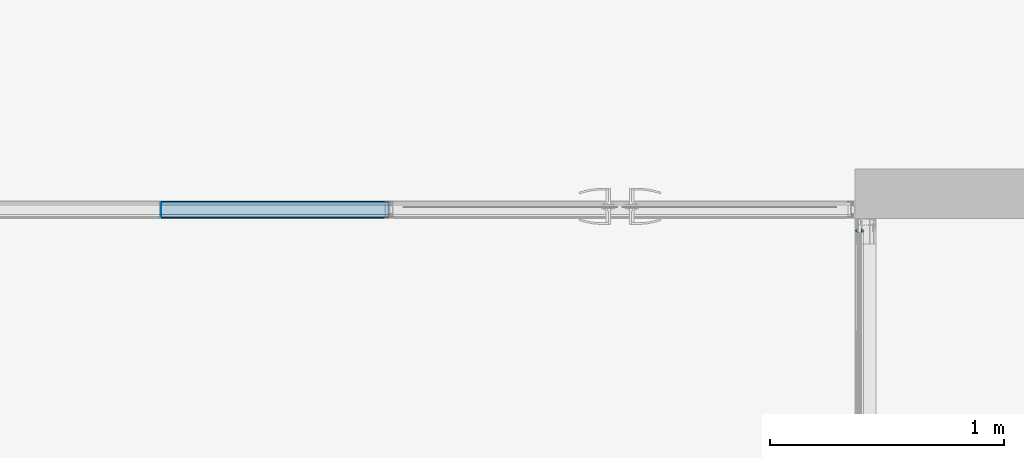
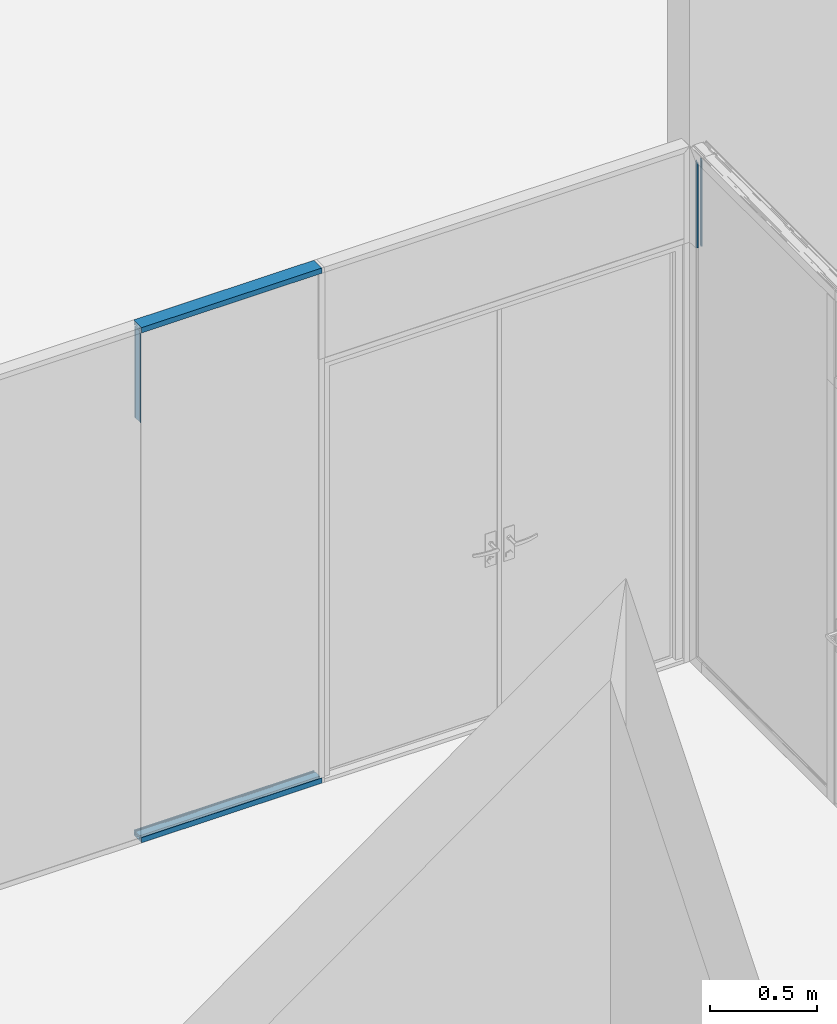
# One storey, part 30 of 62: 7 building element parts, 6 elements without a shape of their own.
"""IFC2X3 building model written with IfcOpenShell, lengths in millimetres."""

from ifc_helpers import new_model, entity, si_unit, converted_unit, derived_unit, money_unit, direction, frame, origin_with_axes, place, context, subcontext, project, spatial, faceted_brep, source, transform, mapped, material, type_object, element, aggregate, save


model = new_model("IFC2X3")

# Units and contexts
model_context = context("Model", 3, precision=0.01, world=origin_with_axes(), true_north=direction((0.0, 1.0)))
body_context = subcontext(model_context, "Body", "Model", "MODEL_VIEW")
ifc_project = project(units=[si_unit("LENGTHUNIT", "METRE", prefix="MILLI"), si_unit("AREAUNIT", "SQUARE_METRE"), si_unit("VOLUMEUNIT", "CUBIC_METRE"), converted_unit("PLANEANGLEUNIT", "DEGREE", entity("IfcPlaneAngleMeasure", 0.0174532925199), si_unit("PLANEANGLEUNIT", "RADIAN"), dimensions=[0, 0, 0, 0, 0, 0, 0]), si_unit("SOLIDANGLEUNIT", "STERADIAN"), money_unit("EUR"), converted_unit("TIMEUNIT", "Year", entity("IfcTimeMeasure", 31556926.0), si_unit("TIMEUNIT", "SECOND"), dimensions=[0, 0, 1, 0, 0, 0, 0]), si_unit("MASSUNIT", "GRAM", prefix="KILO"), si_unit("THERMODYNAMICTEMPERATUREUNIT", "DEGREE_CELSIUS"), si_unit("LUMINOUSINTENSITYUNIT", "LUMEN"), si_unit("ENERGYUNIT", "JOULE", prefix="MEGA"), derived_unit("THERMALCONDUCTANCEUNIT", [(si_unit("POWERUNIT", "WATT"), 1), (si_unit("LENGTHUNIT", "METRE"), -1), (si_unit("THERMODYNAMICTEMPERATUREUNIT", "KELVIN"), -1)]), derived_unit("SPECIFICHEATCAPACITYUNIT", [(si_unit("ENERGYUNIT", "JOULE"), 1), (si_unit("MASSUNIT", "GRAM", prefix="KILO"), -1), (si_unit("THERMODYNAMICTEMPERATUREUNIT", "KELVIN"), -1)]), derived_unit("MASSDENSITYUNIT", [(si_unit("MASSUNIT", "GRAM", prefix="KILO"), 1), (si_unit("VOLUMEUNIT", "CUBIC_METRE"), -1)])], contexts=[model_context])

# Site, building, storey
site_placement = place(None, origin_with_axes())
site = spatial("IfcSite", under=ifc_project, at=site_placement, Name="Puškini 31, Narva", CompositionType="ELEMENT")
building_placement = place(site_placement, origin_with_axes())
building = spatial("IfcBuilding", under=site, at=building_placement, Name="Narva Riigigümnaasium", CompositionType="ELEMENT")
storey_placement = place(building_placement, frame((0.0, 0.0, 660.0), z_axis=(0.0, 0.0, 1.0), x_axis=(1.0, 0.0, 0.0)))
storey = spatial("IfcBuildingStorey", under=building, at=storey_placement, Name="2.korrus +0.66", CompositionType="ELEMENT", Elevation=660.0)

# Curtain wall, members, building element parts
curtain_wall_type = type_object("IfcCurtainWallType", Name="Curtain Wall Type", PredefinedType="NOTDEFINED")
curtain_wall_1_placement = place(storey_placement, frame((45089.2571373, 223837.000216, -1.99739158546e-06), z_axis=(0.0, 0.0, 1.0), x_axis=(1.0, 0.0, 0.0)))
curtain_wall_1 = element("IfcCurtainWall", 1, at=curtain_wall_1_placement, inside=storey, type_object=curtain_wall_type, Name="G-SKLF-52")
member_type_1 = type_object("IfcMemberType", Name="30 x 37", PredefinedType="MULLION")
member_1_placement = place(curtain_wall_1_placement, frame((-558.057143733, 0.0, 2949.99994304), z_axis=(1.0, 0.0, 0.0), x_axis=(0.0, 0.0, -1.0)))
member_1 = element("IfcMember", 2, at=member_1_placement, type_object=member_type_1, Name="G-SKLF-64-raam", ObjectType="MULLION")
ifc_material_1 = material(Name="Klaasvill")
shared_shape_1 = source(origin_with_axes(), body_context, "Body", "Brep", [
    faceted_brep([(7.49999990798, 20.000000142, 0.0), (13.8499999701, 20.000000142, 0.0), (13.8499999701, 20.000000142, 976.600001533), (7.49999990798, 20.000000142, 976.600001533), (7.49999990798, 34.0161444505, 0.0), (13.8499999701, 34.0161444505, 0.0), (13.8499999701, 34.0161444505, 976.600001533), (7.49999990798, 34.0161444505, 976.600001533)], [[[0, 1, 2, 3]], [[0, 4, 5, 1]], [[1, 5, 6, 2]], [[3, 2, 6, 7]], [[4, 0, 3, 7]], [[5, 4, 7, 6]]]),
    faceted_brep([(24.987414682, 34.0161444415, 0.0), (25.004489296, 32.0307503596, 0.0), (25.004489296, 32.0307503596, 976.600001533), (24.987414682, 34.0161444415, 976.600001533), (28.5126239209, 34.0161444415, 0.0), (28.7655837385, 33.0385325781, 0.0), (28.4955493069, 32.0307503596, 0.0), (27.75780152, 31.2930025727, 0.0), (26.7500193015, 31.0229681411, 0.0), (25.742237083, 31.2930025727, 0.0), (25.742237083, 31.2930025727, 976.600001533), (26.7500193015, 31.0229681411, 976.600001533), (27.75780152, 31.2930025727, 976.600001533), (28.4955493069, 32.0307503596, 976.600001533), (28.7655837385, 33.0385325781, 976.600001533), (28.5126239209, 34.0161444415, 976.600001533)], [[[0, 1, 2, 3]], [[0, 4, 5, 6, 7, 8, 9, 1]], [[1, 9, 10, 2]], [[3, 2, 10, 11, 12, 13, 14, 15]], [[4, 0, 3, 15]], [[5, 4, 15, 14]], [[6, 5, 14, 13]], [[7, 6, 13, 12]], [[8, 7, 12, 11]], [[9, 8, 11, 10]]]),
    faceted_brep([(7.49999990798, -19.9999997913, 0.0), (7.49999990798, -34.0161445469, 0.0), (7.49999990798, -34.0161445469, 976.600001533), (7.49999990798, -19.9999997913, 976.600001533), (13.8499999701, -19.9999997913, 0.0), (13.8499999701, -34.0161445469, 0.0), (13.8499999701, -34.0161445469, 976.600001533), (13.8499999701, -19.9999997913, 976.600001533)], [[[0, 1, 2, 3]], [[0, 4, 5, 1]], [[1, 5, 6, 2]], [[3, 2, 6, 7]], [[4, 0, 3, 7]], [[5, 4, 7, 6]]]),
    faceted_brep([(25.004489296, -32.0307503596, 0.0), (24.987414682, -34.0161444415, 0.0), (24.987414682, -34.0161444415, 976.600001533), (25.004489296, -32.0307503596, 976.600001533), (25.742237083, -31.2930025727, 0.0), (26.7500193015, -31.0229681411, 0.0), (27.75780152, -31.2930025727, 0.0), (28.4955493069, -32.0307503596, 0.0), (28.7655837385, -33.0385325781, 0.0), (28.5126239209, -34.0161444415, 0.0), (28.5126239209, -34.0161444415, 976.600001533), (28.7655837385, -33.0385325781, 976.600001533), (28.4955493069, -32.0307503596, 976.600001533), (27.75780152, -31.2930025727, 976.600001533), (26.7500193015, -31.0229681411, 976.600001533), (25.742237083, -31.2930025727, 976.600001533)], [[[0, 1, 2, 3]], [[0, 4, 5, 6, 7, 8, 9, 1]], [[1, 9, 10, 2]], [[3, 2, 10, 11, 12, 13, 14, 15]], [[4, 0, 3, 15]], [[5, 4, 15, 14]], [[6, 5, 14, 13]], [[7, 6, 13, 12]], [[8, 7, 12, 11]], [[9, 8, 11, 10]]]),
])
building_element_part_1_placement = place(member_1_placement, origin_with_axes())
building_element_part_1 = element("IfcBuildingElementPart", 3, at=building_element_part_1_placement, material=ifc_material_1, Name="Klaasvill", context=body_context, shape_type="MappedRepresentation", body=[
    mapped(shared_shape_1, transform((0.0, 0.0, 0.0))),
])
member_2_placement = place(curtain_wall_1_placement, frame((418.5428578, 0.0, 0.0), z_axis=(-1.0, 0.0, 0.0), x_axis=(0.0, 0.0, 1.0)))
member_2 = element("IfcMember", 4, at=member_2_placement, type_object=member_type_1, Name="G-SKLF-68-raam", ObjectType="MULLION")
building_element_part_2_placement = place(member_2_placement, origin_with_axes())
building_element_part_2 = element("IfcBuildingElementPart", 5, at=building_element_part_2_placement, material=ifc_material_1, Name="Klaasvill", context=body_context, shape_type="MappedRepresentation", body=[
    mapped(shared_shape_1, transform((0.0, 0.0, 0.0))),
])
ifc_material_2 = material(Name="Teras RAL7012")
shared_shape_2 = source(origin_with_axes(), body_context, "Body", "Brep", [
    faceted_brep([(0.0, -17.0000000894, 0.0), (29.5999996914, -17.0000000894, 0.0), (29.5999996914, -17.0000000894, 976.600001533), (0.0, -17.0000000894, 976.600001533), (0.0, 17.0000000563, 0.0), (29.5999996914, 17.0000000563, 0.0), (1.9999999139, 15.0000001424, 0.0), (1.9999999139, -15.0000001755, 0.0), (18.7999996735, -15.0000001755, 0.0), (18.7999996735, 15.0000001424, 0.0), (29.5999996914, 17.0000000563, 976.600001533), (0.0, 17.0000000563, 976.600001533), (1.9999999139, 15.0000001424, 976.600001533), (18.7999996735, 15.0000001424, 976.600001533), (18.7999996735, -15.0000001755, 976.600001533), (1.9999999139, -15.0000001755, 976.600001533)], [[[0, 1, 2, 3]], [[0, 4, 5, 1], [6, 7, 8, 9]], [[1, 5, 10, 2]], [[3, 2, 10, 11], [12, 13, 14, 15]], [[4, 0, 3, 11]], [[5, 4, 11, 10]], [[7, 6, 12, 15]], [[8, 7, 15, 14]], [[9, 8, 14, 13]], [[6, 9, 13, 12]]]),
    faceted_brep([(0.0, 17.0, 0.0), (29.5999996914, 17.0000000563, 0.0), (29.5999996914, 17.0000000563, 976.600001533), (0.0, 17.0, 976.600001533), (0.0, 37.0, 0.0), (30.0000193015, 37.0, 0.0), (30.0000193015, 34.0161444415, 0.0), (28.5126239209, 34.0161444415, 0.0), (24.987414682, 34.0161444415, 0.0), (13.8499999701, 34.0161444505, 0.0), (7.49999999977, 34.0161444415, 0.0), (7.49999999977, 20.0, 0.0), (13.8499999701, 20.000000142, 0.0), (30.0000193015, 20.0, 0.0), (30.0000193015, 17.0, 0.0), (30.0000193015, 17.0, 976.600001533), (30.0000193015, 20.0, 976.600001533), (13.8499999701, 20.000000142, 976.600001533), (7.49999999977, 20.0, 976.600001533), (7.49999999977, 34.0161444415, 976.600001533), (13.8499999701, 34.0161444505, 976.600001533), (24.987414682, 34.0161444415, 976.600001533), (28.5126239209, 34.0161444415, 976.600001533), (30.0000193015, 34.0161444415, 976.600001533), (30.0000193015, 37.0, 976.600001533), (0.0, 37.0, 976.600001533)], [[[0, 1, 2, 3]], [[0, 4, 5, 6, 7, 8, 9, 10, 11, 12, 13, 14, 1]], [[1, 14, 15, 2]], [[3, 2, 15, 16, 17, 18, 19, 20, 21, 22, 23, 24, 25]], [[4, 0, 3, 25]], [[5, 4, 25, 24]], [[6, 5, 24, 23]], [[7, 6, 23, 22]], [[8, 7, 22, 21]], [[9, 8, 21, 20]], [[10, 9, 20, 19]], [[11, 10, 19, 18]], [[12, 11, 18, 17]], [[13, 12, 17, 16]], [[14, 13, 16, 15]]]),
    faceted_brep([(0.0, -17.0, 0.0), (0.0, -37.0, 0.0), (0.0, -37.0, 976.600001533), (0.0, -17.0, 976.600001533), (29.5999996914, -17.0000000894, 0.0), (30.0000193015, -17.0, 0.0), (30.0000193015, -20.0, 0.0), (13.8499999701, -19.9999997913, 0.0), (7.49999999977, -20.0, 0.0), (7.49999999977, -34.0161444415, 0.0), (13.8499999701, -34.0161445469, 0.0), (24.987414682, -34.0161444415, 0.0), (28.5126239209, -34.0161444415, 0.0), (30.0000193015, -34.0161444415, 0.0), (30.0000193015, -37.0, 0.0), (30.0000193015, -37.0, 976.600001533), (30.0000193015, -34.0161444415, 976.600001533), (28.5126239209, -34.0161444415, 976.600001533), (24.987414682, -34.0161444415, 976.600001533), (13.8499999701, -34.0161445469, 976.600001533), (7.49999999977, -34.0161444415, 976.600001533), (7.49999999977, -20.0, 976.600001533), (13.8499999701, -19.9999997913, 976.600001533), (30.0000193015, -20.0, 976.600001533), (30.0000193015, -17.0, 976.600001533), (29.5999996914, -17.0000000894, 976.600001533)], [[[0, 1, 2, 3]], [[0, 4, 5, 6, 7, 8, 9, 10, 11, 12, 13, 14, 1]], [[1, 14, 15, 2]], [[3, 2, 15, 16, 17, 18, 19, 20, 21, 22, 23, 24, 25]], [[4, 0, 3, 25]], [[5, 4, 25, 24]], [[6, 5, 24, 23]], [[7, 6, 23, 22]], [[8, 7, 22, 21]], [[9, 8, 21, 20]], [[10, 9, 20, 19]], [[11, 10, 19, 18]], [[12, 11, 18, 17]], [[13, 12, 17, 16]], [[14, 13, 16, 15]]]),
])
building_element_part_3_placement = place(member_1_placement, origin_with_axes())
building_element_part_3 = element("IfcBuildingElementPart", 6, at=building_element_part_3_placement, material=ifc_material_2, Name="Teras RAL7012", context=body_context, shape_type="MappedRepresentation", body=[
    mapped(shared_shape_2, transform((0.0, 0.0, 0.0))),
])
aggregate(member_1, [building_element_part_1, building_element_part_3])
building_element_part_4_placement = place(member_2_placement, origin_with_axes())
building_element_part_4 = element("IfcBuildingElementPart", 7, at=building_element_part_4_placement, material=ifc_material_2, Name="Teras RAL7012", context=body_context, shape_type="MappedRepresentation", body=[
    mapped(shared_shape_2, transform((0.0, 0.0, 0.0))),
])
aggregate(member_2, [building_element_part_2, building_element_part_4])

# Curtain wall, member, building element part
curtain_wall_2_placement = place(storey_placement, frame((47544.998162, 221675.502168, -2.45869393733e-05), z_axis=(0.0, 0.0, 1.0), x_axis=(1.0, 0.0, 0.0)))
curtain_wall_2 = element("IfcCurtainWall", 8, at=curtain_wall_2_placement, inside=storey, type_object=curtain_wall_type, Name="G-SKLF-51")
member_type_2 = type_object("IfcMemberType", Name="61 x 45", PredefinedType="MULLION")
member_3_placement = place(curtain_wall_2_placement, frame((-0.0091109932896, 2124.49797464, 2950.00002459), z_axis=(0.0, 1.81128970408e-09, -1.0), x_axis=(4.28853941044e-06, -0.999999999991, -1.81128970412e-09)))
member_3 = element("IfcMember", 9, at=member_3_placement, type_object=member_type_2, Name="G-SKLF-71-raam", ObjectType="MULLION")
aggregate(curtain_wall_2, [member_3])
ifc_material_3 = material(Name="Membraan - Veekindel")
shared_shape_3 = source(origin_with_axes(), body_context, "Body", "Brep", [
    faceted_brep([(59.5800222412, 34.73794757, 59.5800221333), (59.5800222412, 34.73794757, 550.000000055), (61.0413385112, 34.3890442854, 550.000000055), (61.0413385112, 34.3890442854, 61.0413384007), (58.4755028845, 35.3628499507, 58.4755027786), (58.4755028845, 35.3628499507, 550.000000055), (57.9693613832, 36.5265882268, 550.000000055), (57.7000324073, 39.5999584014, 550.000000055), (57.6464370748, 39.799971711, 550.000000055), (57.5000161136, 39.946391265, 550.000000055), (57.3000022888, 39.9999846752, 550.000000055), (57.3000022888, 39.1999494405, 550.000000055), (55.3000210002, 39.1999606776, 550.000000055), (55.2330337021, 38.9499606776, 550.000000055), (55.0500210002, 38.7669479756, 550.000000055), (54.8000210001, 38.6999606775, 550.000000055), (54.5500210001, 38.7669479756, 550.000000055), (54.3670082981, 38.9499606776, 550.000000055), (54.300021, 39.1999606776, 550.000000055), (54.300021, 40.4999366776, 550.000000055), (54.3402133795, 40.6499366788, 550.000000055), (54.4500210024, 40.7597443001, 550.000000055), (54.6000210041, 40.7999366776, 550.000000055), (54.7000173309, 40.7999366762, 550.000000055), (54.866675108, 40.850483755, 550.000000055), (54.9771753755, 40.9850924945, 550.000000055), (54.9942836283, 41.1584047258, 550.000000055), (54.9122350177, 41.3120206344, 550.000000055), (53.8716106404, 42.3533776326, 550.000000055), (53.7093558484, 42.4618547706, 550.000000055), (53.517932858, 42.4999486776, 550.000000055), (51.8818844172, 42.4999486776, 550.000000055), (51.6904310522, 42.4618421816, 550.000000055), (51.5281601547, 42.3533311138, 550.000000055), (50.4878083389, 41.3119729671, 550.000000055), (50.4057850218, 41.1583618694, 550.000000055), (50.4229059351, 40.9850671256, 550.000000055), (50.5334025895, 40.8504763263, 550.000000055), (50.7000457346, 40.7999366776, 550.000000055), (50.80004, 40.7999366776, 550.000000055), (50.95004, 40.7597442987, 550.000000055), (51.0598476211, 40.6499366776, 550.000000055), (51.10004, 40.4999366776, 550.000000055), (51.10004, 39.1999550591, 550.000000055), (51.0330541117, 38.9499546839, 550.000000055), (50.8500424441, 38.7669409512, 550.000000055), (50.6000428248, 38.699952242, 550.000000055), (50.3500424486, 38.7669381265, 550.000000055), (50.1670287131, 38.9499497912, 550.000000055), (50.10004, 39.1999494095, 550.000000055), (48.7206527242, 39.1999494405, 550.000000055), (48.7206527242, 38.0023809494, 550.000000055), (48.7876400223, 37.7523809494, 550.000000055), (48.9706527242, 37.5693682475, 550.000000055), (49.2206527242, 37.5023809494, 550.000000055), (50.3319753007, 37.5023809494, 550.000000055), (50.5819753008, 37.4353936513, 550.000000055), (50.7649880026, 37.2523809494, 550.000000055), (51.1691331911, 36.5523809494, 550.000000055), (51.352145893, 36.3693682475, 550.000000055), (51.602145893, 36.3023809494, 550.000000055), (53.8391557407, 36.3023809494, 550.000000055), (54.0891557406, 36.3693682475, 550.000000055), (54.2721684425, 36.5523809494, 550.000000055), (54.676313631, 37.2523809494, 550.000000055), (54.8593263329, 37.4353936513, 550.000000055), (55.1093263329, 37.5023809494, 550.000000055), (55.7607444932, 37.5023809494, 550.000000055), (55.9795989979, 37.4519392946, 550.000000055), (56.1542959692, 37.3107917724, 550.000000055), (56.2495873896, 37.1074172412, 550.000000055), (56.9567944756, 35.6067920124, 550.000000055), (58.2346494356, 34.5489145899, 550.000000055), (59.8409257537, 34.1343131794, 550.000000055), (60.7381535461, 33.9217644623, 550.000000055), (61.0108941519, 33.784859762, 550.000000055), (61.1423164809, 33.9681748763, 550.000000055), (61.1536677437, 34.1934467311, 550.000000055), (53.5000340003, 40.7999553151, 550.000000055), (53.433048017, 39.44993177, 550.000000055), (53.2500389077, 39.2669226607, 550.000000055), (53.0000438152, 39.1999366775, 550.000000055), (52.4000171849, 39.1999366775, 550.000000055), (52.1500220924, 39.2669226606, 550.000000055), (51.9670129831, 39.4499317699, 550.000000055), (51.9000269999, 39.6999268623, 550.000000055), (51.9000269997, 40.799955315, 550.000000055), (51.9670118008, 41.0499459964, 550.000000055), (52.150017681, 41.2329518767, 550.000000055), (52.4000083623, 41.299936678, 550.000000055), (53.0000526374, 41.299936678, 550.000000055), (53.2500433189, 41.2329518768, 550.000000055), (53.4330491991, 41.0499459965, 550.000000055), (61.1536677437, 34.1934467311, 61.1536676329), (61.1423164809, 33.9681748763, 61.1423163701), (61.0108941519, 33.784859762, 61.0108940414), (60.7381535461, 33.9217644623, 60.738153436), (59.8409257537, 34.1343131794, 59.8409256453), (58.2346494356, 34.5489145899, 58.2346493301), (56.9567944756, 35.6067920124, 56.9567943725), (56.2495873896, 37.1074172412, 56.2495872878), (56.1542959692, 37.3107917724, 56.1542958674), (55.9795989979, 37.4519392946, 55.9795988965), (55.7607444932, 37.5023809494, 55.7607443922), (55.1093263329, 37.5023809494, 55.1093262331), (54.8593263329, 37.4353936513, 54.8593262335), (54.676313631, 37.2523809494, 54.676313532), (54.2721684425, 36.5523809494, 54.2721683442), (54.0891557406, 36.3693682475, 54.0891556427), (53.8391557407, 36.3023809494, 53.8391556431), (51.602145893, 36.3023809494, 51.6021457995), (51.352145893, 36.3693682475, 51.3521458), (51.1691331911, 36.5523809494, 51.1691330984), (50.7649880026, 37.2523809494, 50.7649879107), (50.5819753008, 37.4353936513, 50.5819752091), (50.3319753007, 37.5023809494, 50.3319752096), (49.2206527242, 37.5023809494, 49.220652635), (48.9706527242, 37.5693682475, 48.9706526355), (48.7876400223, 37.7523809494, 48.7876399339), (48.7206527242, 38.0023809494, 48.7206526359), (48.7206527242, 39.1999494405, 48.7206526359), (50.10004, 39.1999494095, 50.1000399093), (50.1670287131, 38.9499497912, 50.1670286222), (50.3500424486, 38.7669381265, 50.3500423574), (50.6000428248, 38.699952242, 50.6000427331), (50.8500424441, 38.7669409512, 50.850042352), (51.0330541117, 38.9499546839, 51.0330540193), (51.10004, 39.1999550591, 51.1000399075), (51.10004, 40.4999366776, 51.1000399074), (51.0598476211, 40.6499366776, 51.0598475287), (50.95004, 40.7597442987, 50.9500399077), (50.80004, 40.7999366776, 50.800039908), (50.7000457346, 40.7999366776, 50.7000456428), (50.5334025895, 40.8504763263, 50.533402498), (50.4229059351, 40.9850671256, 50.4229058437), (50.4057850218, 41.1583618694, 50.4057849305), (50.4878083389, 41.3119729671, 50.4878082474), (51.5281601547, 42.3533311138, 51.5281600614), (51.6904310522, 42.4618421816, 51.6904309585), (51.8818844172, 42.4999486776, 51.8818843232), (53.517932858, 42.4999486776, 53.5179327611), (53.7093558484, 42.4618547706, 53.7093557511), (53.8716106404, 42.3533776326, 53.8716105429), (54.9122350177, 41.3120206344, 54.9122349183), (54.9942836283, 41.1584047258, 54.9942835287), (54.9771753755, 40.9850924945, 54.9771752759), (54.866675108, 40.850483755, 54.8666750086), (54.7000173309, 40.7999366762, 54.7000172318), (54.6000210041, 40.7999366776, 54.6000209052), (54.4500210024, 40.7597443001, 54.4500209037), (54.3402133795, 40.6499366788, 54.3402132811), (54.300021, 40.4999366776, 54.3000209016), (54.300021, 39.1999606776, 54.3000209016), (54.3670082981, 38.9499606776, 54.3670081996), (54.5500210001, 38.7669479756, 54.5500209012), (54.8000210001, 38.6999606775, 54.8000209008), (55.0500210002, 38.7669479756, 55.0500209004), (55.2330337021, 38.9499606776, 55.233033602), (55.3000210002, 39.1999606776, 55.3000209), (57.3000022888, 39.1999494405, 57.300002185), (57.3000022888, 39.9999846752, 57.300002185), (57.5000161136, 39.946391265, 57.5000160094), (57.6464370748, 39.799971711, 57.6464369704), (57.7000324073, 39.5999584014, 57.7000323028), (57.9693613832, 36.5265882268, 57.9693612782), (53.5000340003, 40.7999553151, 53.5000339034), (53.4330491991, 41.0499459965, 53.4330491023), (53.2500433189, 41.2329518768, 53.2500432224), (53.0000526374, 41.299936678, 53.0000525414), (52.4000083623, 41.299936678, 52.4000082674), (52.150017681, 41.2329518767, 52.1500175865), (51.9670118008, 41.0499459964, 51.9670117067), (51.9000269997, 40.799955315, 51.9000269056), (51.9000269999, 39.6999268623, 51.9000269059), (51.9670129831, 39.4499317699, 51.967012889), (52.1500220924, 39.2669226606, 52.150021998), (52.4000171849, 39.1999366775, 52.40001709), (53.0000438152, 39.1999366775, 53.0000437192), (53.2500389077, 39.2669226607, 53.2500388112), (53.433048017, 39.44993177, 53.4330479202)], [[[0, 1, 2, 3]], [[4, 5, 1, 0]], [[2, 1, 5, 6, 7, 8, 9, 10, 11, 12, 13, 14, 15, 16, 17, 18, 19, 20, 21, 22, 23, 24, 25, 26, 27, 28, 29, 30, 31, 32, 33, 34, 35, 36, 37, 38, 39, 40, 41, 42, 43, 44, 45, 46, 47, 48, 49, 50, 51, 52, 53, 54, 55, 56, 57, 58, 59, 60, 61, 62, 63, 64, 65, 66, 67, 68, 69, 70, 71, 72, 73, 74, 75, 76, 77], [78, 79, 80, 81, 82, 83, 84, 85, 86, 87, 88, 89, 90, 91, 92]], [[3, 2, 77, 93]], [[3, 93, 94, 95, 96, 97, 98, 99, 100, 101, 102, 103, 104, 105, 106, 107, 108, 109, 110, 111, 112, 113, 114, 115, 116, 117, 118, 119, 120, 121, 122, 123, 124, 125, 126, 127, 128, 129, 130, 131, 132, 133, 134, 135, 136, 137, 138, 139, 140, 141, 142, 143, 144, 145, 146, 147, 148, 149, 150, 151, 152, 153, 154, 155, 156, 157, 158, 159, 160, 161, 162, 163, 164, 4, 0], [165, 166, 167, 168, 169, 170, 171, 172, 173, 174, 175, 176, 177, 178, 179]], [[164, 6, 5, 4]], [[163, 7, 6, 164]], [[162, 8, 7, 163]], [[161, 9, 8, 162]], [[160, 10, 9, 161]], [[159, 11, 10, 160]], [[158, 12, 11, 159]], [[157, 13, 12, 158]], [[156, 14, 13, 157]], [[155, 15, 14, 156]], [[154, 16, 15, 155]], [[153, 17, 16, 154]], [[152, 18, 17, 153]], [[151, 19, 18, 152]], [[150, 20, 19, 151]], [[149, 21, 20, 150]], [[148, 22, 21, 149]], [[147, 23, 22, 148]], [[146, 24, 23, 147]], [[145, 25, 24, 146]], [[144, 26, 25, 145]], [[143, 27, 26, 144]], [[142, 28, 27, 143]], [[141, 29, 28, 142]], [[140, 30, 29, 141]], [[139, 31, 30, 140]], [[138, 32, 31, 139]], [[137, 33, 32, 138]], [[136, 34, 33, 137]], [[135, 35, 34, 136]], [[134, 36, 35, 135]], [[133, 37, 36, 134]], [[132, 38, 37, 133]], [[131, 39, 38, 132]], [[130, 40, 39, 131]], [[129, 41, 40, 130]], [[128, 42, 41, 129]], [[127, 43, 42, 128]], [[126, 44, 43, 127]], [[125, 45, 44, 126]], [[124, 46, 45, 125]], [[123, 47, 46, 124]], [[122, 48, 47, 123]], [[121, 49, 48, 122]], [[120, 50, 49, 121]], [[119, 51, 50, 120]], [[118, 52, 51, 119]], [[117, 53, 52, 118]], [[116, 54, 53, 117]], [[115, 55, 54, 116]], [[114, 56, 55, 115]], [[113, 57, 56, 114]], [[112, 58, 57, 113]], [[111, 59, 58, 112]], [[110, 60, 59, 111]], [[109, 61, 60, 110]], [[108, 62, 61, 109]], [[107, 63, 62, 108]], [[106, 64, 63, 107]], [[105, 65, 64, 106]], [[104, 66, 65, 105]], [[103, 67, 66, 104]], [[102, 68, 67, 103]], [[101, 69, 68, 102]], [[100, 70, 69, 101]], [[99, 71, 70, 100]], [[98, 72, 71, 99]], [[97, 73, 72, 98]], [[96, 74, 73, 97]], [[95, 75, 74, 96]], [[94, 76, 75, 95]], [[93, 77, 76, 94]], [[179, 79, 78, 165]], [[178, 80, 79, 179]], [[177, 81, 80, 178]], [[176, 82, 81, 177]], [[175, 83, 82, 176]], [[174, 84, 83, 175]], [[173, 85, 84, 174]], [[172, 86, 85, 173]], [[171, 87, 86, 172]], [[170, 88, 87, 171]], [[169, 89, 88, 170]], [[168, 90, 89, 169]], [[167, 91, 90, 168]], [[166, 92, 91, 167]], [[165, 78, 92, 166]]]),
    faceted_brep([(55.9926715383, 16.8063498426, 55.9926714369), (55.9926715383, 16.8063498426, 550.000000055), (59.0307115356, 16.554149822, 550.000000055), (59.0307115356, 16.554149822, 59.0307114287), (53.7899070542, 16.6230039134, 53.7899069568), (53.7899070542, 16.6230039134, 550.000000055), (53.1225200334, 16.3483062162, 550.000000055), (51.5205025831, 15.0099586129, 550.000000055), (51.3011765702, 14.8998814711, 550.000000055), (51.0558924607, 14.9074036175, 550.000000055), (50.8437237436, 15.0307134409, 550.000000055), (50.5536994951, 15.2121179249, 550.000000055), (46.298307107, 16.7340705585, 550.000000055), (45.950966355, 16.7718696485, 550.000000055), (45.6241929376, 16.6482027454, 550.000000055), (45.3889077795, 16.3899097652, 550.000000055), (45.3195226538, 16.2152275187, 550.000000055), (45.3418968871, 15.7688623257, 550.000000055), (45.6142070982, 15.4144760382, 550.000000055), (51.8169217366, 8.74599822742, 550.000000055), (51.938943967, 8.6326446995, 550.000000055), (52.1026310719, 8.60190419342, 550.000000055), (52.2574645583, 8.66326410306, 550.000000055), (52.3556584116, 8.79778701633, 550.000000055), (52.7761212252, 9.95299910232, 550.000000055), (52.8859560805, 10.0961386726, 550.000000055), (53.0580290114, 10.1503930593, 550.000000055), (55.1123574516, 10.1503930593, 550.000000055), (55.2731258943, 10.1036784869, 550.000000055), (55.3838261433, 9.9780831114, 550.000000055), (55.4099827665, 9.81272116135, 550.000000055), (55.2940485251, 8.85237785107, 550.000000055), (55.3307332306, 8.72753828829, 550.000000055), (55.4168250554, 8.62997353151, 550.000000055), (55.5361285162, 8.57803733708, 550.000000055), (56.9361285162, 8.30590490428, 550.000000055), (57.0661058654, 8.3093438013, 550.000000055), (57.1824204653, 8.36745448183, 550.000000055), (57.2632233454, 8.46932121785, 550.000000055), (57.5418652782, 10.0035930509, 550.000000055), (59.3405112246, 15.0012955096, 550.000000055), (59.5001582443, 15.5494067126, 550.000000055), (59.3884652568, 16.1092618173, 550.000000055), (59.3884652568, 16.1092618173, 59.3884651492), (59.5001582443, 15.5494067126, 59.5001581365), (59.3405112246, 15.0012955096, 59.3405111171), (57.5418652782, 10.0035930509, 57.541865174), (57.2632233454, 8.46932121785, 57.2632232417), (57.1824204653, 8.36745448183, 57.1824203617), (57.0661058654, 8.3093438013, 57.0661057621), (56.9361285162, 8.30590490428, 56.9361284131), (55.5361285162, 8.57803733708, 55.5361284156), (55.4168250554, 8.62997353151, 55.416824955), (55.3307332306, 8.72753828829, 55.3307331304), (55.2940485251, 8.85237785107, 55.294048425), (55.4099827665, 9.81272116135, 55.4099826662), (55.3838261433, 9.9780831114, 55.383826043), (55.2731258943, 10.1036784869, 55.2731257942), (55.1123574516, 10.1503930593, 55.1123573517), (53.0580290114, 10.1503930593, 53.0580289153), (52.8859560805, 10.0961386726, 52.8859559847), (52.7761212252, 9.95299910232, 52.7761211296), (52.3556584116, 8.79778701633, 52.3556583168), (52.2574645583, 8.66326410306, 52.2574644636), (52.1026310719, 8.60190419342, 52.1026309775), (51.938943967, 8.6326446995, 51.9389438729), (51.8169217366, 8.74599822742, 51.8169216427), (45.6142070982, 15.4144760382, 45.6142070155), (45.3418968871, 15.7688623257, 45.3418968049), (45.3195226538, 16.2152275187, 45.3195225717), (45.3889077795, 16.3899097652, 45.3889076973), (45.6241929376, 16.6482027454, 45.624192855), (45.950966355, 16.7718696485, 45.9509662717), (46.298307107, 16.7340705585, 46.2983070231), (50.5536994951, 15.2121179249, 50.5536994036), (50.8437237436, 15.0307134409, 50.8437236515), (51.0558924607, 14.9074036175, 51.0558923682), (51.3011765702, 14.8998814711, 51.3011764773), (51.5205025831, 15.0099586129, 51.5205024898), (53.1225200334, 16.3483062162, 53.1225199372)], [[[0, 1, 2, 3]], [[4, 5, 1, 0]], [[2, 1, 5, 6, 7, 8, 9, 10, 11, 12, 13, 14, 15, 16, 17, 18, 19, 20, 21, 22, 23, 24, 25, 26, 27, 28, 29, 30, 31, 32, 33, 34, 35, 36, 37, 38, 39, 40, 41, 42]], [[3, 2, 42, 43]], [[3, 43, 44, 45, 46, 47, 48, 49, 50, 51, 52, 53, 54, 55, 56, 57, 58, 59, 60, 61, 62, 63, 64, 65, 66, 67, 68, 69, 70, 71, 72, 73, 74, 75, 76, 77, 78, 79, 4, 0]], [[79, 6, 5, 4]], [[78, 7, 6, 79]], [[77, 8, 7, 78]], [[76, 9, 8, 77]], [[75, 10, 9, 76]], [[74, 11, 10, 75]], [[73, 12, 11, 74]], [[72, 13, 12, 73]], [[71, 14, 13, 72]], [[70, 15, 14, 71]], [[69, 16, 15, 70]], [[68, 17, 16, 69]], [[67, 18, 17, 68]], [[66, 19, 18, 67]], [[65, 20, 19, 66]], [[64, 21, 20, 65]], [[63, 22, 21, 64]], [[62, 23, 22, 63]], [[61, 24, 23, 62]], [[60, 25, 24, 61]], [[59, 26, 25, 60]], [[58, 27, 26, 59]], [[57, 28, 27, 58]], [[56, 29, 28, 57]], [[55, 30, 29, 56]], [[54, 31, 30, 55]], [[53, 32, 31, 54]], [[52, 33, 32, 53]], [[51, 34, 33, 52]], [[50, 35, 34, 51]], [[49, 36, 35, 50]], [[48, 37, 36, 49]], [[47, 38, 37, 48]], [[46, 39, 38, 47]], [[45, 40, 39, 46]], [[44, 41, 40, 45]], [[43, 42, 41, 44]]]),
])
building_element_part_5_placement = place(member_3_placement, origin_with_axes())
building_element_part_5 = element("IfcBuildingElementPart", 10, at=building_element_part_5_placement, material=ifc_material_3, Name="Membraan - Veekindel", context=body_context, shape_type="MappedRepresentation", body=[
    mapped(shared_shape_3, transform((0.0, 0.0, 0.0))),
])
aggregate(member_3, [building_element_part_5])

# Member
member_type_3 = type_object("IfcMemberType", Name="3 x -35", PredefinedType="MULLION")
member_4_placement = place(curtain_wall_1_placement, frame((-558.057143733, 0.0, 2400.0), z_axis=(0.0, 0.0, 1.0), x_axis=(1.0, 0.0, 0.0)))
member_4 = element("IfcMember", 11, at=member_4_placement, type_object=member_type_3, Name="G-SKLF-52-raam", ObjectType="MULLION")

aggregate(curtain_wall_1, [member_1, member_4, member_2])

# Building element part
ifc_material_4 = material(Name="Klaas")
shared_shape_4 = source(origin_with_axes(), body_context, "Body", "Brep", [
    faceted_brep([(-1.4999861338, 20.0064497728, 0.0), (1.5000138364, 20.0064497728, 0.0), (1.5000138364, 20.0064497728, 519.999923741), (-1.4999861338, 20.0064497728, 519.999923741), (-1.4999861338, 29.0064496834, 0.0), (1.5000138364, 29.0064496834, 0.0), (1.5000138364, 29.0064496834, 519.999923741), (-1.4999861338, 29.0064496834, 519.999923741)], [[[0, 1, 2, 3]], [[0, 4, 5, 1]], [[1, 5, 6, 2]], [[3, 2, 6, 7]], [[4, 0, 3, 7]], [[5, 4, 7, 6]]]),
    faceted_brep([(-1.4999861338, -19.993550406, 0.0), (-1.4999861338, -28.9935503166, 0.0), (-1.4999861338, -28.9935503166, 519.999923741), (-1.4999861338, -19.993550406, 519.999923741), (1.5000138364, -19.993550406, 0.0), (1.5000138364, -28.9935503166, 0.0), (1.5000138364, -28.9935503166, 519.999923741), (1.5000138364, -19.993550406, 519.999923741)], [[[0, 1, 2, 3]], [[0, 4, 5, 1]], [[1, 5, 6, 2]], [[3, 2, 6, 7]], [[4, 0, 3, 7]], [[5, 4, 7, 6]]]),
])
building_element_part_6_placement = place(member_4_placement, origin_with_axes())
building_element_part_6 = element("IfcBuildingElementPart", 12, at=building_element_part_6_placement, material=ifc_material_4, Name="Klaas", context=body_context, shape_type="MappedRepresentation", body=[
    mapped(shared_shape_4, transform((0.0, 0.0, 0.0))),
])

ifc_material_5 = material(Name="VKR-06_Õhkvahe")
shared_shape_5 = source(origin_with_axes(), body_context, "Body", "Brep", [
    faceted_brep([(-1.4999861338, 20.0064496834, 0.0), (-1.4999861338, -19.9935503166, 0.0), (-1.4999861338, -19.9935503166, 519.999923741), (-1.4999861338, 20.0064496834, 519.999923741), (1.5000138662, 20.0064496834, 0.0), (1.5000138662, -19.9935503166, 0.0), (1.5000138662, -19.9935503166, 519.999923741), (1.5000138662, 20.0064496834, 519.999923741)], [[[0, 1, 2, 3]], [[0, 4, 5, 1]], [[1, 5, 6, 2]], [[3, 2, 6, 7]], [[4, 0, 3, 7]], [[5, 4, 7, 6]]]),
])
building_element_part_7_placement = place(member_4_placement, origin_with_axes())
building_element_part_7 = element("IfcBuildingElementPart", 13, at=building_element_part_7_placement, material=ifc_material_5, Name="VKR-06_Õhkvahe", context=body_context, shape_type="MappedRepresentation", body=[
    mapped(shared_shape_5, transform((0.0, 0.0, 0.0))),
])

aggregate(member_4, [building_element_part_6, building_element_part_7])

save(model, "model.ifc")
